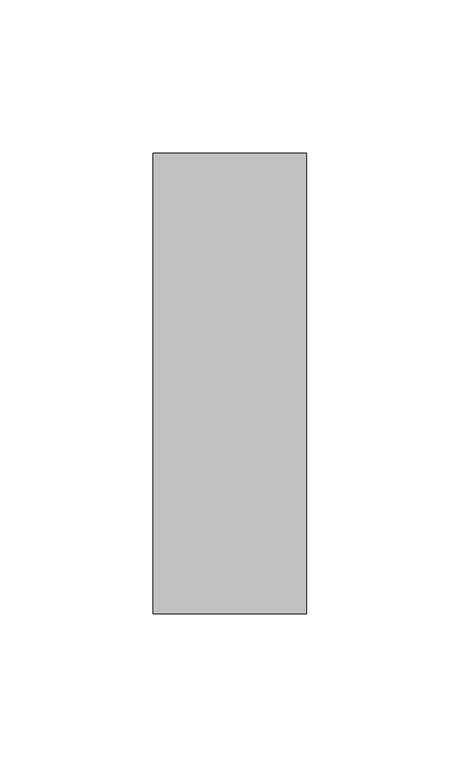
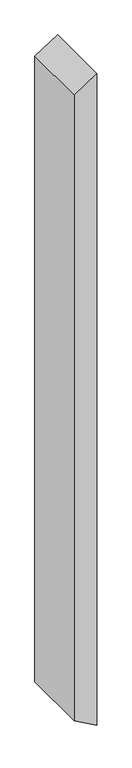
"""IFC4 building model written with IfcOpenShell, lengths in millimetres: member geometry, Прямоугольный импост : 50 x 150 мм."""

from ifc_helpers import new_model, si_unit, frame, origin, place, context, project, spatial, polyline, outline, extrude, source, transform, mapped, element, save


def member_d49a2e3b(model_context):
    return source(origin(), model_context, "Body", "SweptSolid", [
        extrude(outline(polyline([(0.0, 0.0), (-31.890174, -50.0), (-1489.3636021, -50.0), (-1516.5359376, 0.0), (0.0, 0.0)])), frame((0.0, -75.0, 0.0), z_axis=(0.0, 1.0, 0.0), x_axis=(0.0, 0.0, 1.0)), (0.0, 0.0, 1.0), 150.0),
    ])


if __name__ == "__main__":
    model = new_model("IFC4")
    model_context = context("Model", 3, world=origin())
    ifc_project = project(units=[si_unit("LENGTHUNIT", "METRE", prefix="MILLI")], contexts=[model_context])
    site = spatial("IfcSite", under=ifc_project)
    building = spatial("IfcBuilding", under=site)
    placement = place(None, origin())
    member_shape = member_d49a2e3b(model_context)
    element("IfcMember", 1, ObjectType="Прямоугольный импост : 50 x 150 мм", at=placement, inside=building, context=model_context, shape_type="MappedRepresentation", body=[
        mapped(member_shape, transform((0.0, 0.0, 0.0), x_axis=(1.0, 0.0, 0.0), y_axis=(0.0, 1.0, 0.0), z_axis=(0.0, 0.0, 1.0))),
    ])
    save(model, "model.ifc")
